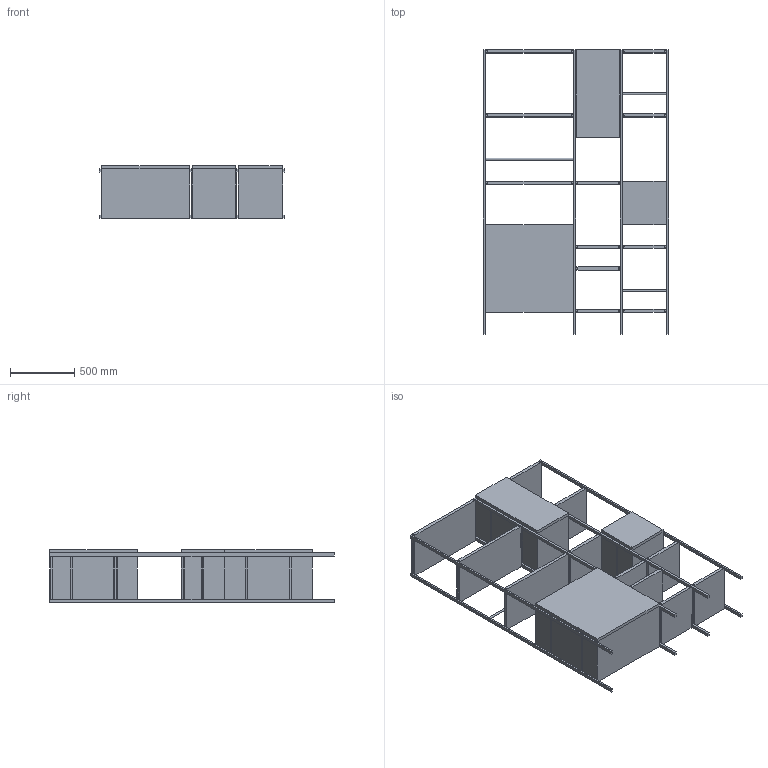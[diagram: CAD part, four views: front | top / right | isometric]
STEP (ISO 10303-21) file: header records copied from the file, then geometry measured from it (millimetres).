
FILE_DESCRIPTION(/* description */ (''),/* implementation_level */ '2;1');
FILE_NAME(/* name */ 'C:\Users\Dario\Desktop\acerbis 25-05\outline B.stp',/* time_stamp */ '2016-05-25T12:38:20+02:00',/* author */ ('Dario'),/* organization */ (''),/* preprocessor_version */ 'ST-DEVELOPER v15.6',/* originating_system */ 'Autodesk Inventor 2015',/* authorisation */ '');
FILE_SCHEMA (('AUTOMOTIVE_DESIGN { 1 0 10303 214 3 1 1 }'));
Length unit declared in the file: millimetre
Products named in the file (30): montante-15x25; montante-15x25_MIR; controventatura 385; controventatura 385_MIR3; controventatura 385_MIR4; mensola 340x385; mensola 680x385_MIR; mensola 680x385; montante-15x25_MIR1; modulo 68x68; controventatura 385_MIR9; modulo 68x34; anta 34x68; anta 68x68; controventatura 385_MIR15; controventatura 385_MIR11_MIR1; mensola 340x385_MIR2; controventatura 385_MIR4_MIR; controventatura 385_MIR16; modulo 34x34; anta 34x34; controventatura 385_MIR17; controventatura 385_MIR18; controventatura 385_MIR19; controventatura 385_MIR20; controventatura 385_MIR11; reggilibro 686; reggilibro 346; controventatura 385_MIR21; mod 1077
Bounding box: 1438 x 2210 x 410.11 mm (x, y, z)
Volume: 145838488.3 mm3; surface area: 14178085.8 mm2
Topology: 60 solids, 60 shells, 334 faces, 633 edges, 422 vertices
Faces by surface type: plane 267, cylinder 67
Full cylindrical faces by diameter (mm): 15 x35
Entity records: 5338 total; most frequent: DIRECTION 934, CARTESIAN_POINT 831, ORIENTED_EDGE 664, AXIS2_PLACEMENT_3D 335, EDGE_CURVE 332, LINE 264, VECTOR 264, VERTEX_POINT 232
